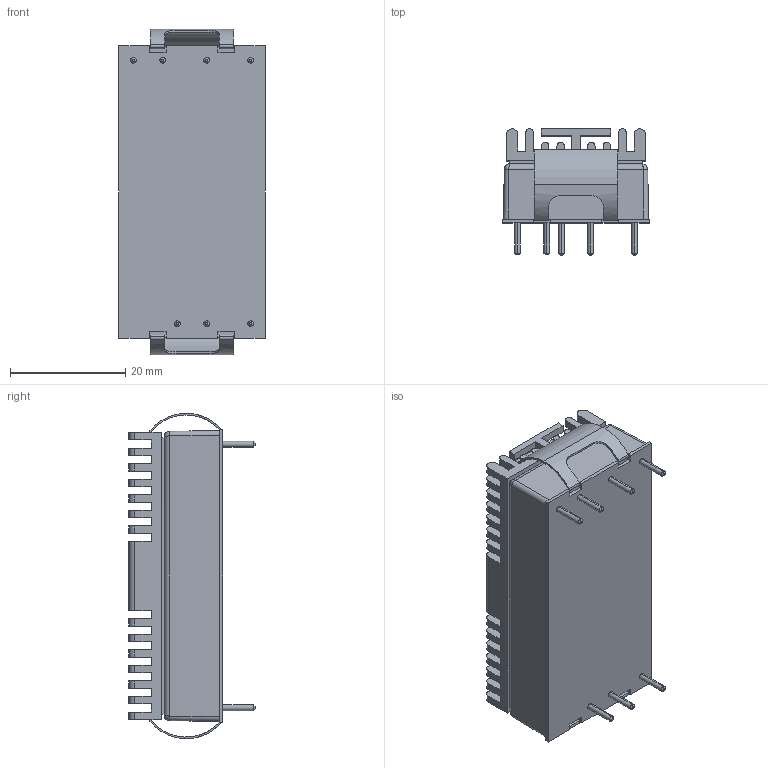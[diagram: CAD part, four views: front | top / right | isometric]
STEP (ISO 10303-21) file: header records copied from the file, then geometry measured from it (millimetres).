
FILE_DESCRIPTION (( 'STEP AP214' ), '1' );
FILE_NAME ('TEN 30-XX3XWIN-HS.STEP', '2018-11-23T00:29:34', ( 'user' ), ( '' ), 'SwSTEP 2.0', 'SolidWorks 2016', '' );
FILE_SCHEMA (( 'AUTOMOTIVE_DESIGN' ));
Length unit declared in the file: millimetre
Products named in the file (5): TEN 30-XX3XWIN-HS; Clamp; Heatsink; Heatfilm; Converter
Assembly tree (5 placements, depth 2):
  TEN 30-XX3XWIN-HS
    Converter
    Heatfilm
    Heatsink
    Clamp  x2
Bounding box: 25.4 x 21.9 x 56.47 mm (x, y, z)
Volume: 17076.8 mm3; surface area: 13392.9 mm2
Topology: 5 solids, 5 shells, 840 faces, 2170 edges, 1430 vertices
Faces by surface type: plane 656, cylinder 166, cone 14, bspline 4
Entity records: 33750 total; most frequent: CARTESIAN_POINT 4644, ORIENTED_EDGE 4160, DIRECTION 4002, EDGE_CURVE 2080, VECTOR 1754, LINE 1754, VERTEX_POINT 1374, AXIS2_PLACEMENT_3D 1124
